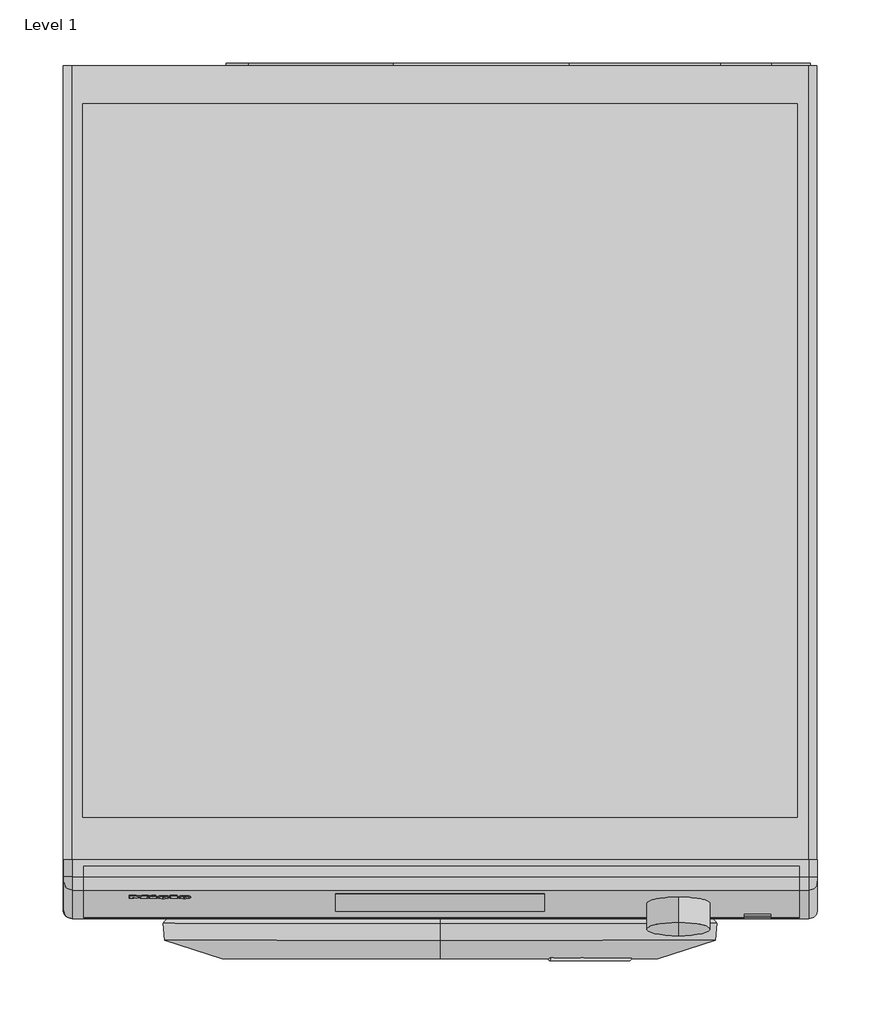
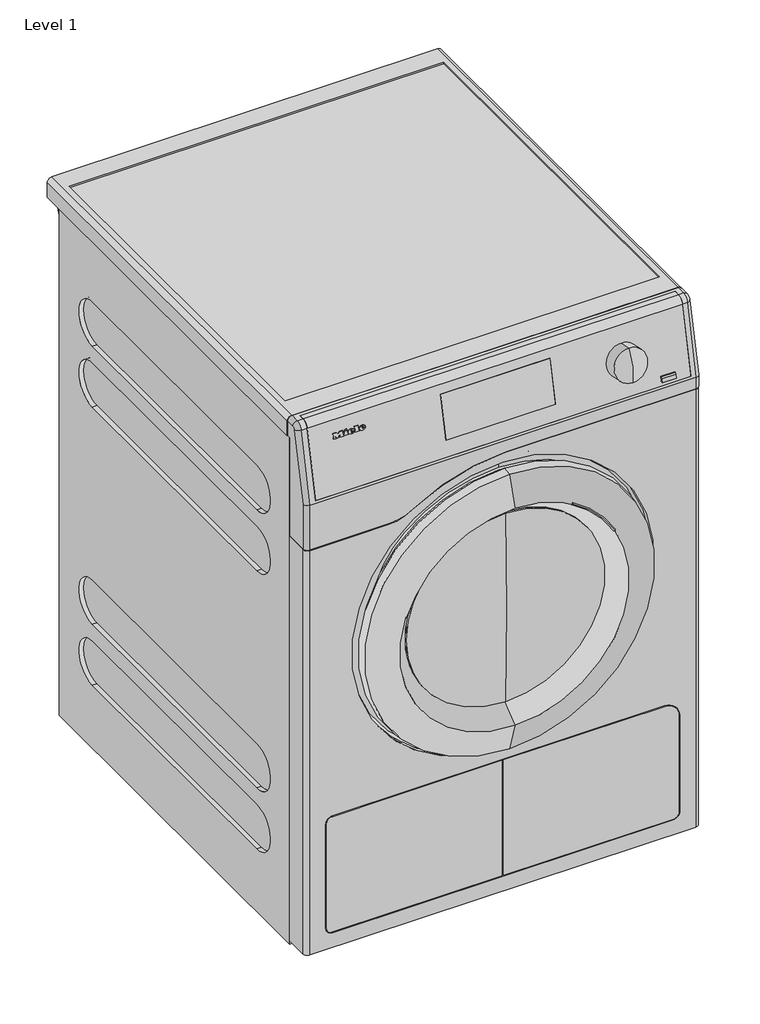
# One storey: 1 proxy.
"""IFC4 building model written with IfcOpenShell, lengths in millimetres."""

from ifc_helpers import new_model, si_unit, origin, place, context, project, spatial, transform, mapped, element, save
from components import specialty_equipment_35a6990b, specialty_equipment_5726b327

model = new_model("IFC4")

# Units and contexts
model_context = context("Model", 3, world=origin())
ifc_project = project(units=[si_unit("LENGTHUNIT", "METRE", prefix="MILLI")], contexts=[model_context])

# Site, building, storey
site = spatial("IfcSite", under=ifc_project)
building = spatial("IfcBuilding", under=site)
storey = spatial("IfcBuildingStorey", under=building, Name="Level 1", Elevation=0.0)

# Proxy
placement = place(None, origin())
specialty_equipment_shape = specialty_equipment_35a6990b(model_context)
specialty_equipment_2_shape = specialty_equipment_5726b327(model_context)
element("IfcBuildingElementProxy", 1, Name="11137080_RU_PDR507EL_LW : 52507352_RU_11137080_PDR507EL_LW", ObjectType="11137080_RU_PDR507EL_LW : 52507352_RU_11137080_PDR507EL_LW", at=placement, inside=storey, context=model_context, shape_type="MappedRepresentation", body=[
    mapped(specialty_equipment_shape, transform((0.0, 0.0, 0.0), x_axis=(1.0, 0.0, 0.0), y_axis=(0.0, 1.0, 0.0), z_axis=(0.0, 0.0, 1.0))),
    mapped(specialty_equipment_2_shape, transform((0.0, 0.0, 0.0), x_axis=(1.0, 0.0, 0.0), y_axis=(0.0, 1.0, 0.0), z_axis=(0.0, 0.0, 1.0))),
])

save(model, "model.ifc")
